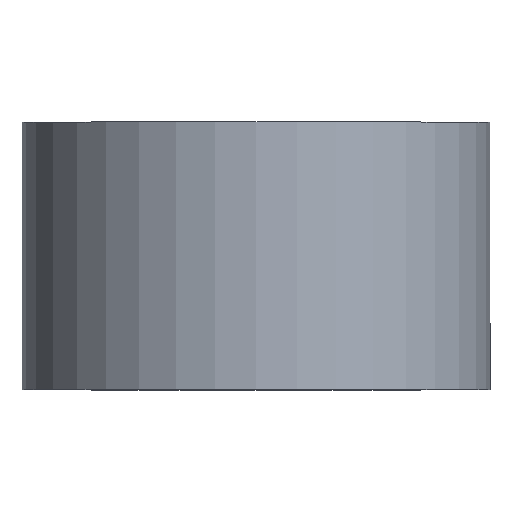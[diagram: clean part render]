
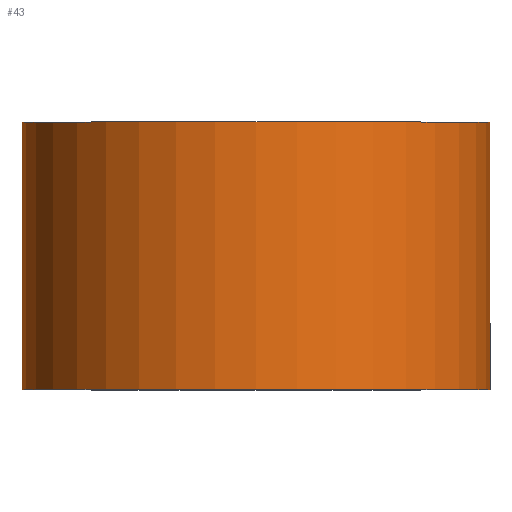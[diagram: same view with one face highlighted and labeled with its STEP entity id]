
A CAD part, top view. The second image highlights one B-rep face of the part: STEP entity #43.
In plain terms, the highlighted cylindrical face has radius 17.5 mm (diameter 35 mm), a partial arc.
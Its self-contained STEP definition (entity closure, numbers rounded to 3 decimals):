
#10 = CARTESIAN_POINT ( 'NONE',  ( 0., 20., 0. ) ) ;
#11 = DIRECTION ( 'NONE',  ( -1., 0., 0. ) ) ;
#16 = CIRCLE ( 'NONE', #162, 17.5 ) ;
#43 = ADVANCED_FACE ( 'NONE', ( #177 ), #202, .T. ) ;
#55 = CARTESIAN_POINT ( 'NONE',  ( -17.5, 0., 0. ) ) ;
#68 = DIRECTION ( 'NONE',  ( 0., 1., 0. ) ) ;
#69 = VERTEX_POINT ( 'NONE', #155 ) ;
#73 = EDGE_CURVE ( 'NONE', #219, #171, #16, .T. ) ;
#88 = CARTESIAN_POINT ( 'NONE',  ( -17.5, 20., 0. ) ) ;
#96 = EDGE_LOOP ( 'NONE', ( #131, #299, #283, #196 ) ) ;
#110 = DIRECTION ( 'NONE',  ( 0., 1., 0. ) ) ;
#112 = CARTESIAN_POINT ( 'NONE',  ( 17.5, 0., 0. ) ) ;
#120 = EDGE_CURVE ( 'NONE', #69, #219, #238, .T. ) ;
#131 = ORIENTED_EDGE ( 'NONE', *, *, #259, .T. ) ;
#135 = VECTOR ( 'NONE', #201, 1000. ) ;
#137 = DIRECTION ( 'NONE',  ( -1., 0., 0. ) ) ;
#138 = CARTESIAN_POINT ( 'NONE',  ( 0., 0., 0. ) ) ;
#150 = VECTOR ( 'NONE', #250, 1000. ) ;
#154 = VERTEX_POINT ( 'NONE', #112 ) ;
#155 = CARTESIAN_POINT ( 'NONE',  ( -17.5, 0., 0. ) ) ;
#162 = AXIS2_PLACEMENT_3D ( 'NONE', #10, #110, #11 ) ;
#171 = VERTEX_POINT ( 'NONE', #271 ) ;
#177 = FACE_OUTER_BOUND ( 'NONE', #96, .T. ) ;
#179 = AXIS2_PLACEMENT_3D ( 'NONE', #246, #288, #268 ) ;
#190 = CIRCLE ( 'NONE', #275, 17.5 ) ;
#192 = LINE ( 'NONE', #199, #135 ) ;
#196 = ORIENTED_EDGE ( 'NONE', *, *, #120, .F. ) ;
#199 = CARTESIAN_POINT ( 'NONE',  ( 17.5, 0., 0. ) ) ;
#201 = DIRECTION ( 'NONE',  ( 0., 1., 0. ) ) ;
#202 = CYLINDRICAL_SURFACE ( 'NONE', #179, 17.5 ) ;
#213 = EDGE_CURVE ( 'NONE', #154, #171, #192, .T. ) ;
#219 = VERTEX_POINT ( 'NONE', #88 ) ;
#238 = LINE ( 'NONE', #55, #150 ) ;
#246 = CARTESIAN_POINT ( 'NONE',  ( 0., 0., 0. ) ) ;
#250 = DIRECTION ( 'NONE',  ( 0., 1., 0. ) ) ;
#259 = EDGE_CURVE ( 'NONE', #69, #154, #190, .T. ) ;
#268 = DIRECTION ( 'NONE',  ( -1., 0., 0. ) ) ;
#271 = CARTESIAN_POINT ( 'NONE',  ( 17.5, 20., 0. ) ) ;
#275 = AXIS2_PLACEMENT_3D ( 'NONE', #138, #68, #137 ) ;
#283 = ORIENTED_EDGE ( 'NONE', *, *, #73, .F. ) ;
#288 = DIRECTION ( 'NONE',  ( 0., 1., 0. ) ) ;
#299 = ORIENTED_EDGE ( 'NONE', *, *, #213, .T. ) ;
